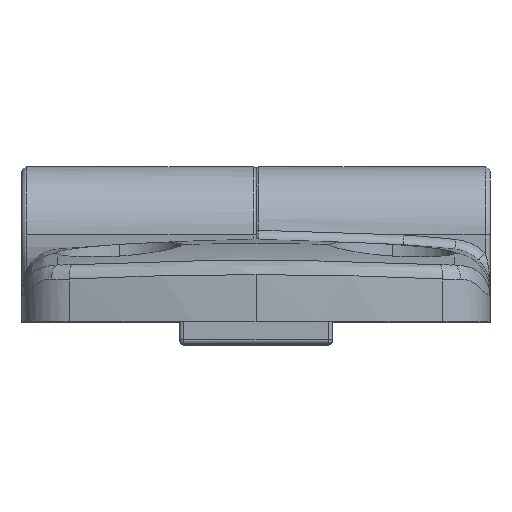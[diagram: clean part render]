
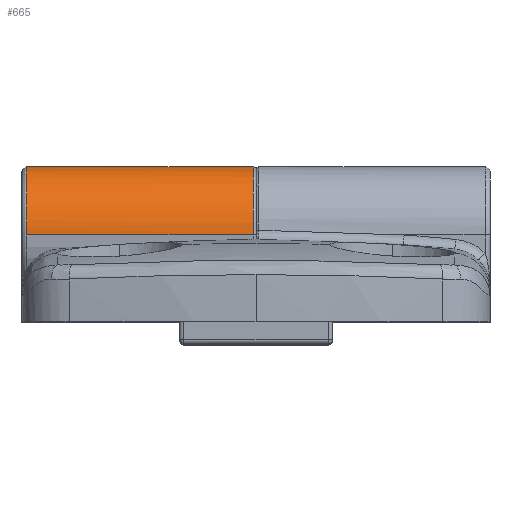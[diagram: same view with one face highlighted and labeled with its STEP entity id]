
A CAD part, top view. The second image highlights one B-rep face of the part: STEP entity #665.
In plain terms, the highlighted cylindrical face has radius 7 mm (diameter 14 mm), a partial arc.
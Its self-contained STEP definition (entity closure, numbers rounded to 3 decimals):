
#665=ADVANCED_FACE('NONE',(#1639),#1640,.T.);
#1639=FACE_OUTER_BOUND('',#3626,.T.);
#1640=CYLINDRICAL_SURFACE('',#3627,7.0);
#3626=EDGE_LOOP('',(#7221,#7222,#7223,#7224,#7225));
#3627=AXIS2_PLACEMENT_3D('',#7226,#7227,#7228);
#7221=ORIENTED_EDGE('',*,*,#10478,.F.);
#7222=ORIENTED_EDGE('',*,*,#10479,.T.);
#7223=ORIENTED_EDGE('',*,*,#10480,.T.);
#7224=ORIENTED_EDGE('',*,*,#10481,.T.);
#7225=ORIENTED_EDGE('',*,*,#10482,.T.);
#7226=CARTESIAN_POINT('',(23.382,-7.388,20.543));
#7227=DIRECTION('',(1.0,0.,-0.0));
#7228=DIRECTION('',(0.0,0.0,1.0));
#10478=EDGE_CURVE('NONE',#11485,#12193,#12194,.T.);
#10479=EDGE_CURVE('NONE',#11485,#12195,#12196,.T.);
#10480=EDGE_CURVE('NONE',#12195,#12197,#12198,.T.);
#10481=EDGE_CURVE('NONE',#12197,#12199,#12200,.T.);
#10482=EDGE_CURVE('NONE',#12199,#12193,#12201,.T.);
#11485=VERTEX_POINT('NONE',#13482);
#12193=VERTEX_POINT('NONE',#15339);
#12194=LINE('',#15340,#15341);
#12195=VERTEX_POINT('NONE',#15342);
#12196=CIRCLE('',#15343,7.0);
#12197=VERTEX_POINT('NONE',#15344);
#12198=B_SPLINE_CURVE_WITH_KNOTS('',3,(#15345,#15346,#15347,#15348),.UNSPECIFIED.,.F.,.F.,(4,4),(0.015,0.03),.UNSPECIFIED.);
#12199=VERTEX_POINT('NONE',#15349);
#12200=LINE('',#15350,#15351);
#12201=B_SPLINE_CURVE_WITH_KNOTS('',3,(#15352,#15353,#15354,#15355,#15356,#15357,#15358,#15359,#15360,#15361,#15362,#15363,#15364,#15365,#15366,#15367,#15368,#15369),.UNSPECIFIED.,.F.,.F.,(4,2,2,2,2,2,2,2,4),(0.0,0.094,0.188,0.281,0.375,0.469,0.563,0.656,0.75),.UNSPECIFIED.);
#13482=CARTESIAN_POINT('',(-0.918,-7.388,27.543));
#15339=CARTESIAN_POINT('',(-24.118,-7.388,27.543));
#15340=CARTESIAN_POINT('',(23.382,-7.388,27.543));
#15341=VECTOR('',#18823,1000.0);
#15342=CARTESIAN_POINT('',(-0.918,-6.908,13.56));
#15343=AXIS2_PLACEMENT_3D('',#18824,#18825,#18826);
#15344=CARTESIAN_POINT('',(-15.762,-7.388,13.543));
#15345=CARTESIAN_POINT('',(-0.918,-6.908,13.56));
#15346=CARTESIAN_POINT('',(-5.871,-6.915,13.559));
#15347=CARTESIAN_POINT('',(-10.819,-7.074,13.543));
#15348=CARTESIAN_POINT('',(-15.762,-7.388,13.543));
#15349=CARTESIAN_POINT('',(-24.118,-7.388,13.543));
#15350=CARTESIAN_POINT('',(23.382,-7.388,13.543));
#15351=VECTOR('',#18827,1000.0);
#15352=CARTESIAN_POINT('',(-24.118,-7.388,13.543));
#15353=CARTESIAN_POINT('',(-24.118,-6.471,13.543));
#15354=CARTESIAN_POINT('',(-24.118,-5.556,13.726));
#15355=CARTESIAN_POINT('',(-24.118,-3.862,14.427));
#15356=CARTESIAN_POINT('',(-24.118,-3.086,14.946));
#15357=CARTESIAN_POINT('',(-24.118,-1.79,16.242));
#15358=CARTESIAN_POINT('',(-24.118,-1.271,17.018));
#15359=CARTESIAN_POINT('',(-24.118,-0.57,18.711));
#15360=CARTESIAN_POINT('',(-24.118,-0.388,19.627));
#15361=CARTESIAN_POINT('',(-24.118,-0.388,21.46));
#15362=CARTESIAN_POINT('',(-24.118,-0.57,22.376));
#15363=CARTESIAN_POINT('',(-24.118,-1.271,24.069));
#15364=CARTESIAN_POINT('',(-24.118,-1.79,24.845));
#15365=CARTESIAN_POINT('',(-24.118,-3.086,26.141));
#15366=CARTESIAN_POINT('',(-24.118,-3.862,26.66));
#15367=CARTESIAN_POINT('',(-24.118,-5.556,27.361));
#15368=CARTESIAN_POINT('',(-24.118,-6.471,27.543));
#15369=CARTESIAN_POINT('',(-24.118,-7.388,27.543));
#18823=DIRECTION('',(-1.0,0.,0.));
#18824=CARTESIAN_POINT('',(-0.918,-7.388,20.543));
#18825=DIRECTION('',(-1.0,0.,-0.0));
#18826=DIRECTION('',(0.0,0.0,-1.0));
#18827=DIRECTION('',(-1.0,0.,0.));
